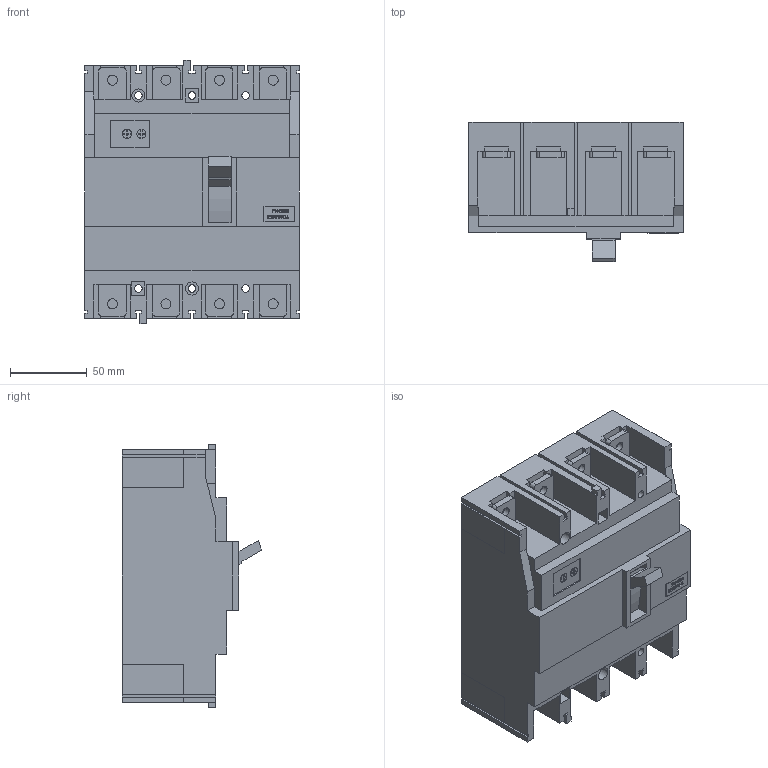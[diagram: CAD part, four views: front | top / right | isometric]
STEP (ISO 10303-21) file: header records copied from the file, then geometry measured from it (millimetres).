
FILE_DESCRIPTION((''),'2;1');
FILE_NAME('ZS250GJ4160','2012-09-20T',('cmahecha'),(''),'PRO/ENGINEER BY PARAMETRIC TECHNOLOGY CORPORATION, 2010280','PRO/ENGINEER BY PARAMETRIC TECHNOLOGY CORPORATION, 2010280','');
FILE_SCHEMA(('CONFIG_CONTROL_DESIGN'));
Length unit declared in the file: millimetre
Products named in the file (1): ZS250GJ4160
Bounding box: 140 x 90.8 x 172 mm (x, y, z)
Volume: 1340402 mm3; surface area: 124414.7 mm2
Topology: 1 solids, 1 shells, 708 faces, 1987 edges, 1316 vertices
Faces by surface type: plane 650, cylinder 58
Entity records: 22501 total; most frequent: CARTESIAN_POINT 4011, ORIENTED_EDGE 3974, DIRECTION 3527, EDGE_CURVE 1987, VECTOR 1863, LINE 1863, VERTEX_POINT 1316, AXIS2_PLACEMENT_3D 832
